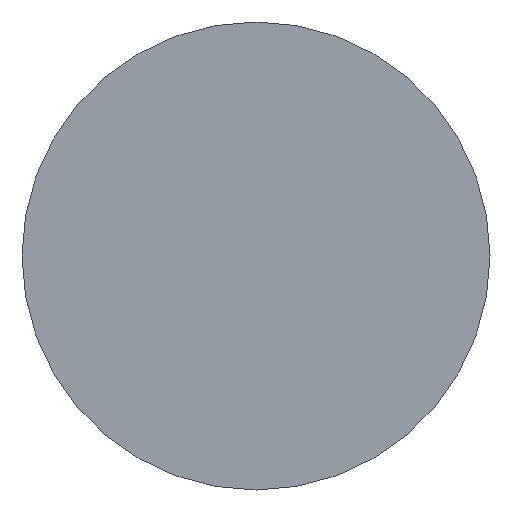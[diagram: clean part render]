
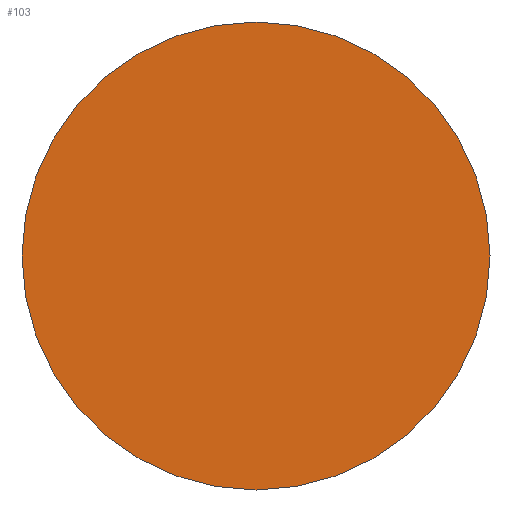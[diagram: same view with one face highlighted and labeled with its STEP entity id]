
A CAD part, left-side view. The second image highlights one B-rep face of the part: STEP entity #103.
In plain terms, the highlighted planar face has unit normal (-1, 0, 0).
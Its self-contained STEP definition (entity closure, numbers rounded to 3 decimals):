
#13 = CARTESIAN_POINT ( 'NONE',  ( 0., 4., 0. ) ) ;
#30 = PLANE ( 'NONE',  #238 ) ;
#31 = DIRECTION ( 'NONE',  ( -1., 0., 0. ) ) ;
#36 = CIRCLE ( 'NONE', #133, 4. ) ;
#40 = CARTESIAN_POINT ( 'NONE',  ( 0., 0., 0. ) ) ;
#65 = DIRECTION ( 'NONE',  ( 0., -1., 0. ) ) ;
#72 = CARTESIAN_POINT ( 'NONE',  ( 0., -4., 0. ) ) ;
#97 = EDGE_CURVE ( 'NONE', #140, #132, #166, .T. ) ;
#103 = ADVANCED_FACE ( 'NONE', ( #179 ), #30, .T. ) ;
#110 = ORIENTED_EDGE ( 'NONE', *, *, #97, .F. ) ;
#132 = VERTEX_POINT ( 'NONE', #13 ) ;
#133 = AXIS2_PLACEMENT_3D ( 'NONE', #40, #198, #266 ) ;
#140 = VERTEX_POINT ( 'NONE', #72 ) ;
#142 = DIRECTION ( 'NONE',  ( 0., 1., 0. ) ) ;
#150 = ORIENTED_EDGE ( 'NONE', *, *, #185, .F. ) ;
#166 = CIRCLE ( 'NONE', #196, 4. ) ;
#175 = DIRECTION ( 'NONE',  ( 1., 0., 0. ) ) ;
#178 = CARTESIAN_POINT ( 'NONE',  ( 0., 0., 0. ) ) ;
#179 = FACE_OUTER_BOUND ( 'NONE', #216, .T. ) ;
#185 = EDGE_CURVE ( 'NONE', #132, #140, #36, .T. ) ;
#196 = AXIS2_PLACEMENT_3D ( 'NONE', #178, #175, #142 ) ;
#198 = DIRECTION ( 'NONE',  ( 1., 0., 0. ) ) ;
#216 = EDGE_LOOP ( 'NONE', ( #150, #110 ) ) ;
#238 = AXIS2_PLACEMENT_3D ( 'NONE', #263, #31, #65 ) ;
#263 = CARTESIAN_POINT ( 'NONE',  ( 0., 0., 0. ) ) ;
#266 = DIRECTION ( 'NONE',  ( 0., 1., 0. ) ) ;
